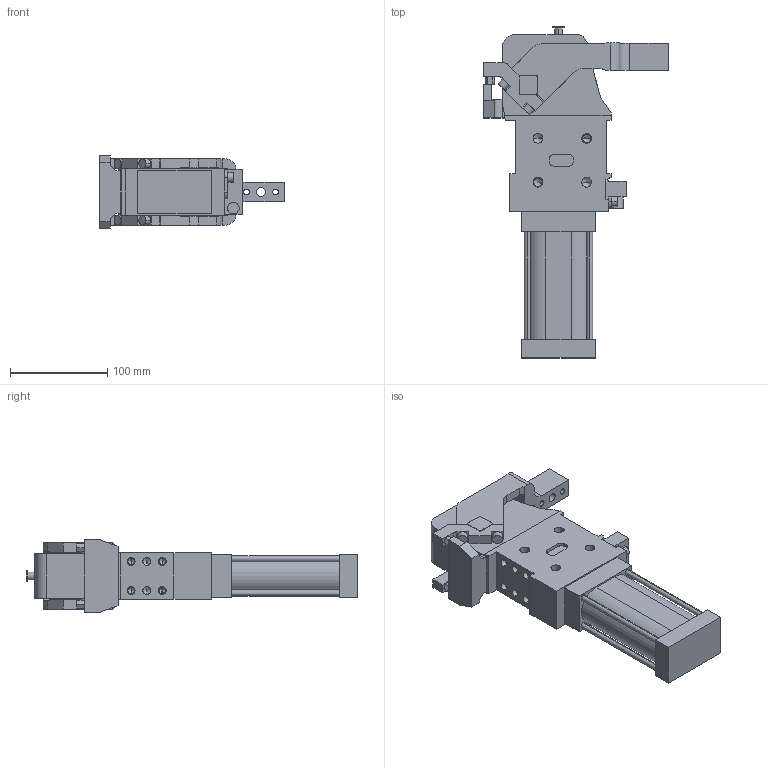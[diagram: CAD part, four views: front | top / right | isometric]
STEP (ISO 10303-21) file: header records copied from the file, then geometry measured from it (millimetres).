
FILE_DESCRIPTION (( 'STEP AP214' ), '1' );
FILE_NAME ('cpl50tv1csi1g_16.STEP', '2023-01-26T09:00:02', ( '' ), ( '' ), 'SwSTEP 2.0', 'SolidWorks 2022', '' );
FILE_SCHEMA (( 'AUTOMOTIVE_DESIGN' ));
Length unit declared in the file: millimetre
Products named in the file (4): leva_v1cs_cpl50t; meccanica_cpl_50_tassello_esterno; blocchetto_VEP_0; cpl50tv1csi1g_16
Assembly tree (3 placements, depth 2):
  cpl50tv1csi1g_16
    meccanica_cpl_50_tassello_esterno
    blocchetto_VEP_0
    leva_v1cs_cpl50t
Bounding box: 190 x 341 x 74 mm (x, y, z)
Volume: 1418086.7 mm3; surface area: 171707.7 mm2
Topology: 3 solids, 3 shells, 436 faces, 1134 edges, 709 vertices
Faces by surface type: plane 224, cylinder 162, cone 50
Entity records: 14602 total; most frequent: DIRECTION 2310, CARTESIAN_POINT 2309, ORIENTED_EDGE 2176, EDGE_CURVE 1088, AXIS2_PLACEMENT_3D 784, VECTOR 742, LINE 742, VERTEX_POINT 709
